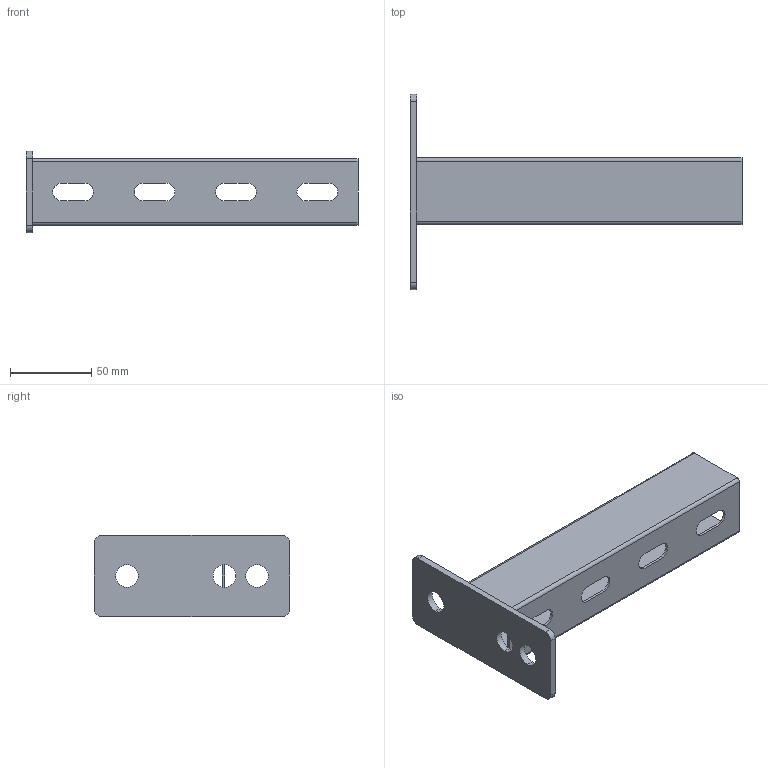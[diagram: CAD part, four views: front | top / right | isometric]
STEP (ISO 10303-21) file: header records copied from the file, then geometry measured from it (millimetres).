
FILE_DESCRIPTION (( 'STEP AP214' ), '1' );
FILE_NAME ('SP4 150 GC.STEP', '2023-06-28T13:50:51', ( '' ), ( '' ), 'SwSTEP 2.0', 'SolidWorks 2022', '' );
FILE_SCHEMA (( 'AUTOMOTIVE_DESIGN' ));
Length unit declared in the file: millimetre
Products named in the file (3): SP4 150 GC; P41 41x41x2.5_200; Placa trasera SP_e4
Assembly tree (2 placements, depth 2):
  SP4 150 GC
    P41 41x41x2.5_200
    Placa trasera SP_e4
Bounding box: 204 x 120 x 50 mm (x, y, z)
Volume: 63973.3 mm3; surface area: 70110.6 mm2
Topology: 2 solids, 2 shells, 92 faces, 216 edges, 128 vertices
Faces by surface type: plane 58, cylinder 34
Entity records: 2722 total; most frequent: DIRECTION 478, CARTESIAN_POINT 441, ORIENTED_EDGE 432, EDGE_CURVE 216, AXIS2_PLACEMENT_3D 165, LINE 148, VECTOR 148, VERTEX_POINT 128
